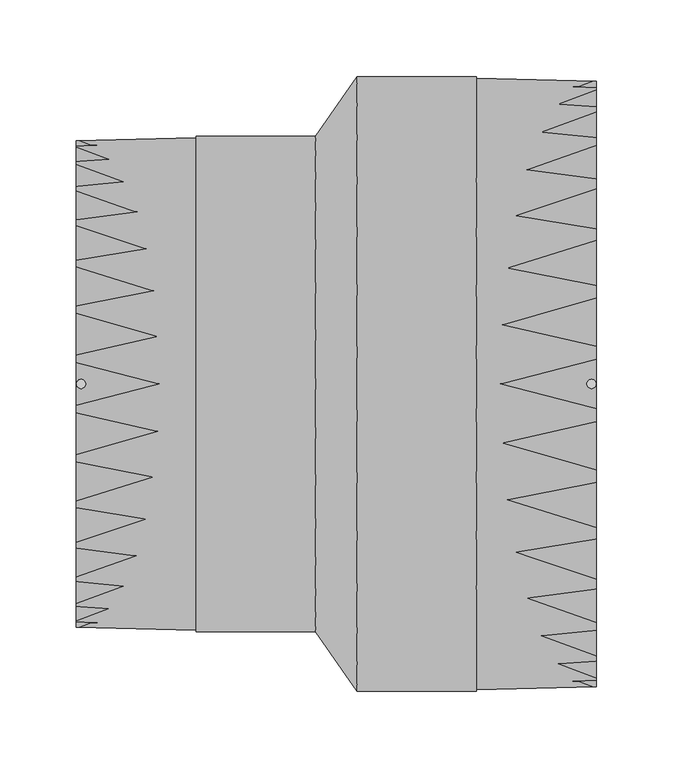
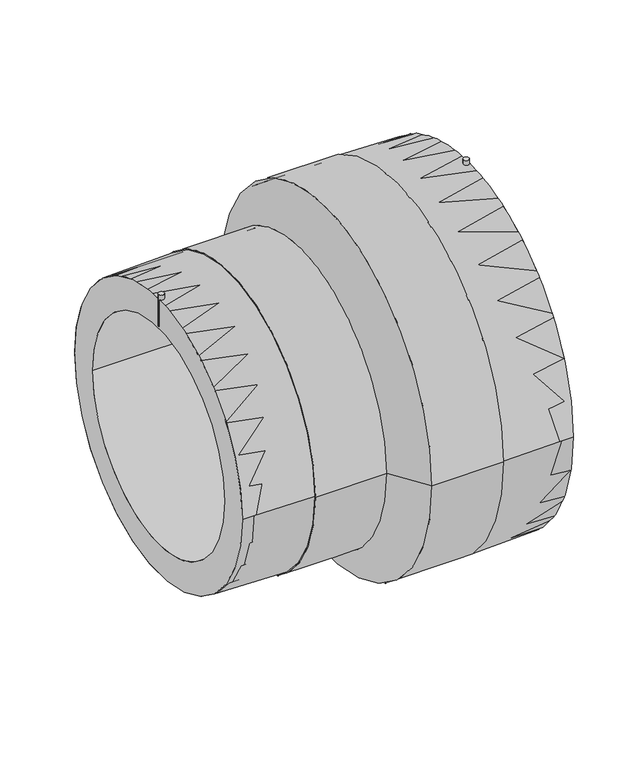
"""IFC4 building model written with IfcOpenShell, lengths in millimetres: pipe fitting geometry, EGB_VASEN_ PPR_Manguito reductor electrosoldable WXRD110 : Manguito reductor electrosoldable WXRD110."""

from ifc_helpers import new_model, si_unit, point, frame, frame_2d, origin, origin_2d, place, context, project, spatial, polyline, circle_curve, trimmed, segment, composite_curve, outline, extrude, source, transform, mapped, element, save
from ifc_brep_helpers import plane_surface, cylinder_surface, revolved_surface, advanced_brep


def pipe_fitting_e36ffbd6(model_context):
    return source(origin(), model_context, "Body", "SolidModel", [
        extrude(outline(composite_curve([segment(trimmed(circle_curve(frame_2d((167.0, 0.0)), 3.0), [point((164.0, 0.0))], [point((170.0, 0.0))], False, "CARTESIAN"), True, "CONTINUOUS"), segment(trimmed(circle_curve(frame_2d((167.0, 0.0)), 3.0), [point((170.0, 0.0))], [point((164.0, 0.0))], False, "CARTESIAN"), True, "CONTINUOUS")], self_intersect=False)), frame((0.0, 0.0, 159.5), z_axis=(0.0, 0.0, 1.0), x_axis=(1.0, 0.0, 0.0)), (0.0, 0.0, 1.0), 43.5),
        extrude(outline(composite_curve([segment(trimmed(circle_curve(frame_2d((-167.0, 0.0)), 3.0), [point((-170.0, 0.0))], [point((-164.0, 0.0))], False, "CARTESIAN"), True, "CONTINUOUS"), segment(trimmed(circle_curve(frame_2d((-167.0, 0.0)), 3.0), [point((-164.0, 0.0))], [point((-170.0, 0.0))], False, "CARTESIAN"), True, "CONTINUOUS")], self_intersect=False)), frame((0.0, 0.0, 127.0), z_axis=(0.0, 0.0, 1.0), x_axis=(1.0, 0.0, 0.0)), (0.0, 0.0, 1.0), 37.0),
        extrude(outline(composite_curve([segment(trimmed(circle_curve(origin_2d(), 198.0), [point((-198.0, 0.0))], [point((198.0, 0.0))], False, "CARTESIAN"), True, "CONTINUOUS"), segment(trimmed(circle_curve(origin_2d(), 198.0), [point((198.0, 0.0))], [point((-198.0, 0.0))], False, "CARTESIAN"), True, "CONTINUOUS")], self_intersect=False), holes=[composite_curve([segment(trimmed(circle_curve(origin_2d(), 157.5), [point((-157.5, 0.0))], [point((157.5, 0.0))], True, "CARTESIAN"), True, "CONTINUOUS"), segment(trimmed(circle_curve(origin_2d(), 157.5), [point((157.5, 0.0))], [point((-157.5, 0.0))], True, "CARTESIAN"), True, "CONTINUOUS")], self_intersect=False)]), frame((13.6, 0.0, 0.0), z_axis=(1.0, 0.0, 0.0), x_axis=(0.0, 1.0, 0.0)), (0.0, 0.0, 1.0), 156.4),
        extrude(outline(composite_curve([segment(trimmed(circle_curve(origin_2d(), 159.0), [point((-159.0, 0.0))], [point((159.0, 0.0))], False, "CARTESIAN"), True, "CONTINUOUS"), segment(trimmed(circle_curve(origin_2d(), 159.0), [point((159.0, 0.0))], [point((-159.0, 0.0))], False, "CARTESIAN"), True, "CONTINUOUS")], self_intersect=False), holes=[composite_curve([segment(trimmed(circle_curve(origin_2d(), 125.0), [point((-125.0, 0.0))], [point((125.0, 0.0))], True, "CARTESIAN"), True, "CONTINUOUS"), segment(trimmed(circle_curve(origin_2d(), 125.0), [point((125.0, 0.0))], [point((-125.0, 0.0))], True, "CARTESIAN"), True, "CONTINUOUS")], self_intersect=False)]), frame((-170.0, 0.0, 0.0), z_axis=(1.0, 0.0, 0.0), x_axis=(0.0, 1.0, 0.0)), (0.0, 0.0, 1.0), 156.4),
        advanced_brep(
        [(13.6, -198.0, 0.0), (13.6, 198.0, 0.0), (-13.6, -159.0, 0.0), (-13.6, 159.0, 0.0)],
        [
            (0, 1, circle_curve(frame((13.6, 0.0, 0.0), z_axis=(1.0, 0.0, 0.0), x_axis=(0.0, -1.0, 0.0)), 198.0)),
            (1, 0, circle_curve(frame((13.6, 0.0, 0.0), z_axis=(1.0, 0.0, 0.0), x_axis=(0.0, 1.0, 0.0)), 198.0)),
            (2, 3, circle_curve(frame((-13.6, 0.0, 0.0), z_axis=(-1.0, 0.0, 0.0), x_axis=(0.0, 1.0, 0.0)), 159.0)),
            (3, 2, circle_curve(frame((-13.6, 0.0, 0.0), z_axis=(-1.0, 0.0, 0.0), x_axis=(0.0, -1.0, 0.0)), 159.0)),
            (3, 1),
            (0, 2),
        ],
        [
            plane_surface(frame((13.6, 0.0, 0.0), z_axis=(1.0, 0.0, 0.0), x_axis=(0.0, 0.0, -1.0))),
            plane_surface(frame((-13.6, 0.0, 0.0), z_axis=(-1.0, 0.0, 0.0), x_axis=(0.0, 0.0, -1.0))),
            revolved_surface(polyline([(-13.599999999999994, 159.00000000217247, 0.0), (13.599999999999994, 198.0, 0.0)]), (-124.4923077, 0.0, 0.0), (1.0, 0.0, 0.0)),
            revolved_surface(polyline([(-13.599999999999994, -159.00000000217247, 0.0), (13.599999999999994, -198.0, 0.0)]), (-124.4923077, 0.0, 0.0), (1.0, 0.0, 0.0)),
        ],
        [
            (0, [[1, 2]]),
            (1, [[3, 4]]),
            (2, [[-4, 5, -1, 6]]),
            (3, [[-3, -6, -2, -5]]),
        ],
    ),
        advanced_brep(
        [(13.6, -198.0, 0.0), (13.6, 198.0, 0.0), (-13.6, 159.0, 0.0), (-13.6, -159.0, 0.0), (170.0, -198.0, 0.0), (170.0, 198.0, 0.0), (91.8, -200.0, 0.0), (91.8, 200.0, 0.0), (91.8, -201.0, 0.0), (91.8, 201.0, 0.0), (13.6, -201.0, 0.0), (13.6, 201.0, 0.0), (-13.6, -162.0, 0.0), (-13.6, 162.0, 0.0), (-91.8, -162.0, 0.0), (-91.8, 162.0, 0.0), (-91.8, -161.0, 0.0), (-91.8, 161.0, 0.0), (-170.0, -159.0, 0.0), (-170.0, 159.0, 0.0)],
        [
            (0, 1, circle_curve(frame((13.6, 0.0, 0.0), z_axis=(1.0, 0.0, 0.0), x_axis=(0.0, 1.0, 0.0)), 198.0)),
            (1, 2),
            (2, 3, circle_curve(frame((-13.6, 0.0, 0.0), z_axis=(-1.0, 0.0, 0.0), x_axis=(0.0, 1.0, 0.0)), 159.0)),
            (3, 0),
            (1, 0, circle_curve(frame((13.6, 0.0, 0.0), z_axis=(1.0, 0.0, 0.0), x_axis=(0.0, 1.0, 0.0)), 198.0)),
            (3, 2, circle_curve(frame((-13.6, 0.0, 0.0), z_axis=(-1.0, 0.0, 0.0), x_axis=(0.0, 1.0, 0.0)), 159.0)),
            (4, 5, circle_curve(frame((170.0, 0.0, 0.0), z_axis=(1.0, 0.0, 0.0), x_axis=(0.0, 1.0, 0.0)), 198.0)),
            (5, 1),
            (0, 4),
            (5, 4, circle_curve(frame((170.0, 0.0, 0.0), z_axis=(1.0, 0.0, 0.0), x_axis=(0.0, 1.0, 0.0)), 198.0)),
            (6, 7, circle_curve(frame((91.8, 0.0, 0.0), z_axis=(1.0, 0.0, 0.0), x_axis=(0.0, 1.0, 0.0)), 200.0)),
            (7, 5),
            (4, 6),
            (7, 6, circle_curve(frame((91.8, 0.0, 0.0), z_axis=(1.0, 0.0, 0.0), x_axis=(0.0, 1.0, 0.0)), 200.0)),
            (8, 9, circle_curve(frame((91.8, 0.0, 0.0), z_axis=(1.0, 0.0, 0.0), x_axis=(0.0, 1.0, 0.0)), 201.0)),
            (9, 7),
            (6, 8),
            (9, 8, circle_curve(frame((91.8, 0.0, 0.0), z_axis=(1.0, 0.0, 0.0), x_axis=(0.0, 1.0, 0.0)), 201.0)),
            (10, 11, circle_curve(frame((13.6, 0.0, 0.0), z_axis=(1.0, 0.0, 0.0), x_axis=(0.0, 1.0, 0.0)), 201.0)),
            (11, 9),
            (8, 10),
            (11, 10, circle_curve(frame((13.6, 0.0, 0.0), z_axis=(1.0, 0.0, 0.0), x_axis=(0.0, 1.0, 0.0)), 201.0)),
            (12, 13, circle_curve(frame((-13.6, 0.0, 0.0), z_axis=(1.0, 0.0, 0.0), x_axis=(0.0, 1.0, 0.0)), 162.0)),
            (13, 11),
            (10, 12),
            (13, 12, circle_curve(frame((-13.6, 0.0, 0.0), z_axis=(1.0, 0.0, 0.0), x_axis=(0.0, 1.0, 0.0)), 162.0)),
            (14, 15, circle_curve(frame((-91.8, 0.0, 0.0), z_axis=(1.0, 0.0, 0.0), x_axis=(0.0, 1.0, 0.0)), 162.0)),
            (15, 13),
            (12, 14),
            (15, 14, circle_curve(frame((-91.8, 0.0, 0.0), z_axis=(1.0, 0.0, 0.0), x_axis=(0.0, 1.0, 0.0)), 162.0)),
            (16, 17, circle_curve(frame((-91.8, 0.0, 0.0), z_axis=(1.0, 0.0, 0.0), x_axis=(0.0, 1.0, 0.0)), 161.0)),
            (17, 15),
            (14, 16),
            (17, 16, circle_curve(frame((-91.8, 0.0, 0.0), z_axis=(1.0, 0.0, 0.0), x_axis=(0.0, 1.0, 0.0)), 161.0)),
            (18, 19, circle_curve(frame((-170.0, 0.0, 0.0), z_axis=(1.0, 0.0, 0.0), x_axis=(0.0, 1.0, 0.0)), 159.0)),
            (19, 17),
            (16, 18),
            (19, 18, circle_curve(frame((-170.0, 0.0, 0.0), z_axis=(1.0, 0.0, 0.0), x_axis=(0.0, 1.0, 0.0)), 159.0)),
            (2, 19),
            (18, 3),
        ],
        [
            revolved_surface(polyline([(-13.6, 159.0, 0.0), (13.6, 198.0, 0.0)]), (-205.0, 0.0, 0.0), (-1.0, 0.0, 0.0)),
            revolved_surface(polyline([(13.599999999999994, 198.0, 0.0), (170.0, 198.0, 0.0)]), (-205.0, 0.0, 0.0), (-1.0, 0.0, 0.0)),
            revolved_surface(polyline([(170.0, 198.0, 0.0), (91.8, 200.0, 0.0)]), (-205.0, 0.0, 0.0), (-1.0, 0.0, 0.0)),
            plane_surface(frame((91.8, 0.0, 0.0), z_axis=(1.0, 0.0, 0.0), x_axis=(0.0, 1.0, 0.0))),
            cylinder_surface(frame((-205.0, 0.0, 0.0), z_axis=(-1.0, 0.0, 0.0), x_axis=(0.0, 1.0, 0.0)), 201.0),
            revolved_surface(polyline([(13.6, 201.0, 0.0), (-13.6, 162.0, 0.0)]), (-205.0, 0.0, 0.0), (-1.0, 0.0, 0.0)),
            cylinder_surface(frame((-205.0, 0.0, 0.0), z_axis=(-1.0, 0.0, 0.0), x_axis=(0.0, 1.0, 0.0)), 162.0),
            plane_surface(frame((-91.8, 0.0, 0.0), z_axis=(-1.0, 0.0, 0.0), x_axis=(0.0, 1.0, 0.0))),
            revolved_surface(polyline([(-91.8, 161.0, 0.0), (-170.0, 159.0, 0.0)]), (-205.0, 0.0, 0.0), (-1.0, 0.0, 0.0)),
            revolved_surface(polyline([(-170.0, 159.0, 0.0), (-13.599999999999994, 159.0, 0.0)]), (-205.0, 0.0, 0.0), (-1.0, 0.0, 0.0)),
        ],
        [
            (0, [[1, 2, 3, 4]]),
            (0, [[5, -4, 6, -2]]),
            (1, [[7, 8, -1, 9]]),
            (1, [[10, -9, -5, -8]]),
            (2, [[11, 12, -7, 13]]),
            (2, [[14, -13, -10, -12]]),
            (3, [[15, 16, -11, 17]]),
            (3, [[18, -17, -14, -16]]),
            (4, [[19, 20, -15, 21]]),
            (4, [[22, -21, -18, -20]]),
            (5, [[23, 24, -19, 25]]),
            (5, [[26, -25, -22, -24]]),
            (6, [[27, 28, -23, 29]]),
            (6, [[30, -29, -26, -28]]),
            (7, [[31, 32, -27, 33]]),
            (7, [[34, -33, -30, -32]]),
            (8, [[35, 36, -31, 37]]),
            (8, [[38, -37, -34, -36]]),
            (9, [[-3, 39, -35, 40]]),
            (9, [[-6, -40, -38, -39]]),
        ],
    ),
    ])


if __name__ == "__main__":
    model = new_model("IFC4")
    model_context = context("Model", 3, world=origin())
    ifc_project = project(units=[si_unit("LENGTHUNIT", "METRE", prefix="MILLI")], contexts=[model_context])
    site = spatial("IfcSite", under=ifc_project)
    building = spatial("IfcBuilding", under=site)
    placement = place(None, origin())
    pipe_fitting_shape = pipe_fitting_e36ffbd6(model_context)
    element("IfcPipeFitting", 1, ObjectType="EGB_VASEN_ PPR_Manguito reductor electrosoldable WXRD110 : Manguito reductor electrosoldable WXRD110", at=placement, inside=building, context=model_context, shape_type="MappedRepresentation", body=[
        mapped(pipe_fitting_shape, transform((0.0, 0.0, 0.0), x_axis=(1.0, 0.0, 0.0), y_axis=(0.0, 1.0, 0.0), z_axis=(0.0, 0.0, 1.0))),
    ])
    save(model, "model.ifc")
